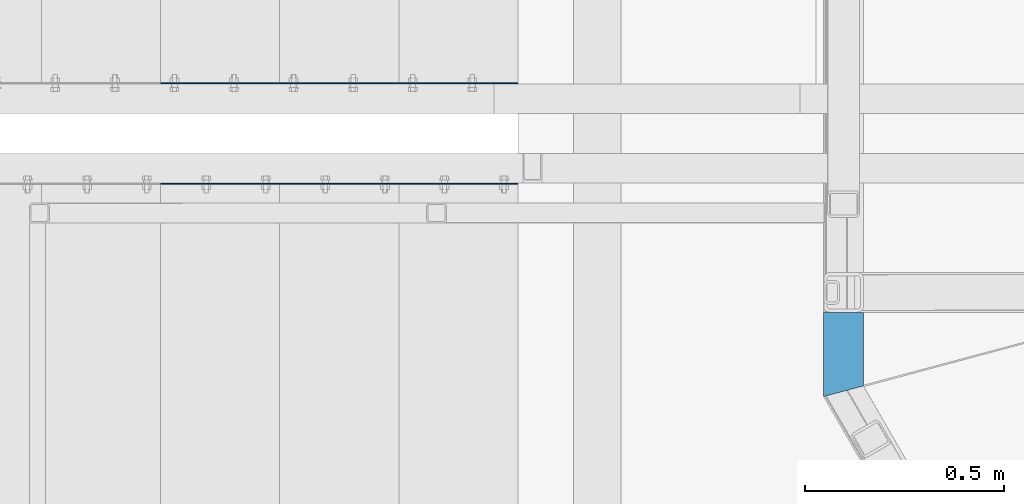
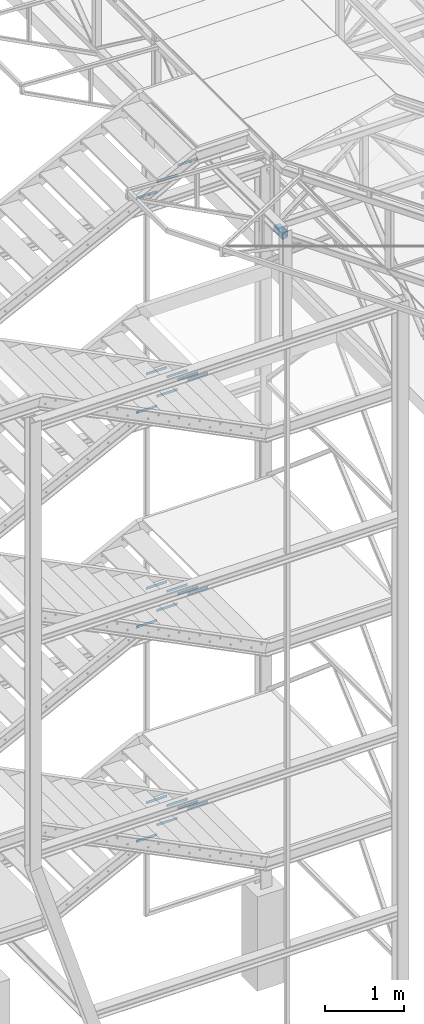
# One storey, part 68 of 132: 22 discrete accessories, 22 elements without a shape of their own.
"""IFC2X3 building model written with IfcOpenShell, lengths in millimetres."""

from ifc_helpers import new_model, si_unit, frame, origin_with_axes, origin_2d_with_axis, place, context, subcontext, project, spatial, rectangle, hollow_rectangle, extrude, clip, halfspace, material, type_object, element, aggregate, save


model = new_model("IFC2X3")

# Units and contexts
model_context = context("Model", 3, precision=1e-05, world=origin_with_axes())
body_context = subcontext(model_context, "Body", "Model", "MODEL_VIEW")
ifc_project = project(units=[si_unit("LENGTHUNIT", "METRE", prefix="MILLI"), si_unit("AREAUNIT", "SQUARE_METRE"), si_unit("VOLUMEUNIT", "CUBIC_METRE"), si_unit("MASSUNIT", "GRAM", prefix="KILO"), si_unit("TIMEUNIT", "SECOND"), si_unit("PLANEANGLEUNIT", "RADIAN"), si_unit("SOLIDANGLEUNIT", "STERADIAN"), si_unit("THERMODYNAMICTEMPERATUREUNIT", "DEGREE_CELSIUS"), si_unit("LUMINOUSINTENSITYUNIT", "LUMEN")], contexts=[model_context])

# Site, building, storey
site_placement = place(None, origin_with_axes())
site = spatial("IfcSite", under=ifc_project, at=site_placement, Name="Budowa", CompositionType="ELEMENT")
building_placement = place(site_placement, origin_with_axes())
building = spatial("IfcBuilding", under=site, at=building_placement, Name="Undefined", CompositionType="ELEMENT")
storey_placement = place(building_placement, origin_with_axes())
storey = spatial("IfcBuildingStorey", under=building, at=storey_placement, Name="Undefined", CompositionType="ELEMENT", Elevation=0.0)

# Assembly, discrete accessory
assembly_1_placement = place(storey_placement, origin_with_axes())
assembly_1 = element("IfcElementAssembly", 1, at=assembly_1_placement, inside=storey, Name="Steel Assembly", AssemblyPlace="NOTDEFINED", PredefinedType="RIGID_FRAME")
ifc_material_1 = material(Name="STEEL/S235")
discrete_accessory_type_1 = type_object("IfcDiscreteAccessoryType", Name="BEAM")
discrete_accessory_1_placement = place(assembly_1_placement, frame((-0.000107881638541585, 8737.71781926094, 12830.0), z_axis=(-1.0, 0.0, 0.0), x_axis=(0.0, 1.0, 0.0)))
discrete_accessory_1 = element("IfcDiscreteAccessory", 2, at=discrete_accessory_1_placement, type_object=discrete_accessory_type_1, material=ifc_material_1, Name="BEAM", ObjectType="SHS100*8", context=body_context, shape_type="Clipping", body=[
    clip(extrude(hollow_rectangle(XDim=100.0, YDim=100.0, WallThickness=8.0, InnerFilletRadius=8.0, OuterFilletRadius=16.0, at=origin_2d_with_axis()), frame((212.282180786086, 0.0, 0.0), z_axis=(-1.0, 0.0, 0.0), x_axis=(0.0, -1.0, 0.0)), (0.0, 0.0, 1.0), 212.42), halfspace(frame((26.7949198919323, 0.0, -50.0000000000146), z_axis=(0.965925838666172, 0.0, 0.258818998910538), x_axis=(0.0, -1.0, 0.0)), True)),
])
aggregate(assembly_1, [discrete_accessory_1])

assembly_2_placement = place(storey_placement, origin_with_axes())
assembly_2 = element("IfcElementAssembly", 3, at=assembly_2_placement, inside=storey, Name="Steel Assembly", AssemblyPlace="NOTDEFINED", PredefinedType="RIGID_FRAME")
ifc_material_2 = material(Name="STEEL/S235JR")
discrete_accessory_type_2 = type_object("IfcDiscreteAccessoryType", Name="ANGLE")
discrete_accessory_2_placement = place(assembly_2_placement, frame((-820.00000008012, 9526.5000000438, 13829.9999999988), z_axis=(0.0, 1.0, 0.0), x_axis=(-1.0, 0.0, 0.0)))
discrete_accessory_2 = element("IfcDiscreteAccessory", 4, at=discrete_accessory_2_placement, type_object=discrete_accessory_type_2, material=ifc_material_2, Name="ANGLE", ObjectType="3*40", context=body_context, shape_type="SweptSolid", body=[
    extrude(rectangle(XDim=40.0, YDim=3.0, at=origin_2d_with_axis()), frame((300.0, 0.0, 0.0), z_axis=(-1.0, 0.0, 0.0), x_axis=(0.0, -1.0, 0.0)), (0.0, 0.0, 1.0), 300.0),
])
aggregate(assembly_2, [discrete_accessory_2])

assembly_3_placement = place(storey_placement, origin_with_axes())
assembly_3 = element("IfcElementAssembly", 5, at=assembly_3_placement, inside=storey, Name="Steel Assembly", AssemblyPlace="NOTDEFINED", PredefinedType="RIGID_FRAME")
discrete_accessory_3_placement = place(assembly_3_placement, frame((-1120.00000008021, 9526.5000000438, 13679.9999999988), z_axis=(0.0, 1.0, 0.0), x_axis=(-1.0, 0.0, 0.0)))
discrete_accessory_3 = element("IfcDiscreteAccessory", 6, at=discrete_accessory_3_placement, type_object=discrete_accessory_type_2, material=ifc_material_2, Name="ANGLE", ObjectType="3*40", context=body_context, shape_type="SweptSolid", body=[
    extrude(rectangle(XDim=40.0, YDim=3.0, at=origin_2d_with_axis()), frame((300.0, 0.0, 0.0), z_axis=(-1.0, 0.0, 0.0), x_axis=(0.0, -1.0, 0.0)), (0.0, 0.0, 1.0), 300.0),
])
aggregate(assembly_3, [discrete_accessory_3])

assembly_4_placement = place(storey_placement, origin_with_axes())
assembly_4 = element("IfcElementAssembly", 7, at=assembly_4_placement, inside=storey, Name="Steel Assembly", AssemblyPlace="NOTDEFINED", PredefinedType="RIGID_FRAME")
discrete_accessory_4_placement = place(assembly_4_placement, frame((-1420.0000000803, 9526.5000000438, 13529.9999999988), z_axis=(0.0, 1.0, 0.0), x_axis=(-1.0, 0.0, 0.0)))
discrete_accessory_4 = element("IfcDiscreteAccessory", 8, at=discrete_accessory_4_placement, type_object=discrete_accessory_type_2, material=ifc_material_2, Name="ANGLE", ObjectType="3*40", context=body_context, shape_type="SweptSolid", body=[
    extrude(rectangle(XDim=40.0, YDim=3.0, at=origin_2d_with_axis()), frame((300.0, 0.0, 0.0), z_axis=(-1.0, 0.0, 0.0), x_axis=(0.0, -1.0, 0.0)), (0.0, 0.0, 1.0), 300.0),
])
aggregate(assembly_4, [discrete_accessory_4])

assembly_5_placement = place(storey_placement, origin_with_axes())
assembly_5 = element("IfcElementAssembly", 9, at=assembly_5_placement, inside=storey, Name="Steel Assembly", AssemblyPlace="NOTDEFINED", PredefinedType="RIGID_FRAME")
discrete_accessory_5_placement = place(assembly_5_placement, frame((-1720.00000007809, 9273.50000004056, 10980.0000000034), z_axis=(0.0, -1.0, 0.0), x_axis=(1.0, 0.0, 0.0)))
discrete_accessory_5 = element("IfcDiscreteAccessory", 10, at=discrete_accessory_5_placement, type_object=discrete_accessory_type_2, material=ifc_material_2, Name="ANGLE", ObjectType="3*40", context=body_context, shape_type="SweptSolid", body=[
    extrude(rectangle(XDim=40.0, YDim=3.0, at=origin_2d_with_axis()), frame((300.0, 0.0, 0.0), z_axis=(-1.0, 0.0, 0.0), x_axis=(0.0, -1.0, 0.0)), (0.0, 0.0, 1.0), 300.0),
])
aggregate(assembly_5, [discrete_accessory_5])

assembly_6_placement = place(storey_placement, origin_with_axes())
assembly_6 = element("IfcElementAssembly", 11, at=assembly_6_placement, inside=storey, Name="Steel Assembly", AssemblyPlace="NOTDEFINED", PredefinedType="RIGID_FRAME")
discrete_accessory_6_placement = place(assembly_6_placement, frame((-1420.00000007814, 9273.50000004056, 10830.0000000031), z_axis=(0.0, -1.0, 0.0), x_axis=(1.0, 0.0, 0.0)))
discrete_accessory_6 = element("IfcDiscreteAccessory", 12, at=discrete_accessory_6_placement, type_object=discrete_accessory_type_2, material=ifc_material_2, Name="ANGLE", ObjectType="3*40", context=body_context, shape_type="SweptSolid", body=[
    extrude(rectangle(XDim=40.0, YDim=3.0, at=origin_2d_with_axis()), frame((300.0, 0.0, 0.0), z_axis=(-1.0, 0.0, 0.0), x_axis=(0.0, -1.0, 0.0)), (0.0, 0.0, 1.0), 300.0),
])
aggregate(assembly_6, [discrete_accessory_6])

assembly_7_placement = place(storey_placement, origin_with_axes())
assembly_7 = element("IfcElementAssembly", 13, at=assembly_7_placement, inside=storey, Name="Steel Assembly", AssemblyPlace="NOTDEFINED", PredefinedType="RIGID_FRAME")
discrete_accessory_7_placement = place(assembly_7_placement, frame((-1120.00000007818, 9273.50000004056, 10680.0000000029), z_axis=(0.0, -1.0, 0.0), x_axis=(1.0, 0.0, 0.0)))
discrete_accessory_7 = element("IfcDiscreteAccessory", 14, at=discrete_accessory_7_placement, type_object=discrete_accessory_type_2, material=ifc_material_2, Name="ANGLE", ObjectType="3*40", context=body_context, shape_type="SweptSolid", body=[
    extrude(rectangle(XDim=40.0, YDim=3.0, at=origin_2d_with_axis()), frame((300.0, 0.0, 0.0), z_axis=(-1.0, 0.0, 0.0), x_axis=(0.0, -1.0, 0.0)), (0.0, 0.0, 1.0), 300.0),
])
aggregate(assembly_7, [discrete_accessory_7])

assembly_8_placement = place(storey_placement, origin_with_axes())
assembly_8 = element("IfcElementAssembly", 15, at=assembly_8_placement, inside=storey, Name="Steel Assembly", AssemblyPlace="NOTDEFINED", PredefinedType="RIGID_FRAME")
discrete_accessory_8_placement = place(assembly_8_placement, frame((-820.000000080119, 9526.5000000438, 10529.9999999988), z_axis=(0.0, 1.0, 0.0), x_axis=(-1.0, 0.0, 0.0)))
discrete_accessory_8 = element("IfcDiscreteAccessory", 16, at=discrete_accessory_8_placement, type_object=discrete_accessory_type_2, material=ifc_material_2, Name="ANGLE", ObjectType="3*40", context=body_context, shape_type="SweptSolid", body=[
    extrude(rectangle(XDim=40.0, YDim=3.0, at=origin_2d_with_axis()), frame((300.0, 0.0, 0.0), z_axis=(-1.0, 0.0, 0.0), x_axis=(0.0, -1.0, 0.0)), (0.0, 0.0, 1.0), 300.0),
])
aggregate(assembly_8, [discrete_accessory_8])

assembly_9_placement = place(storey_placement, origin_with_axes())
assembly_9 = element("IfcElementAssembly", 17, at=assembly_9_placement, inside=storey, Name="Steel Assembly", AssemblyPlace="NOTDEFINED", PredefinedType="RIGID_FRAME")
discrete_accessory_9_placement = place(assembly_9_placement, frame((-1120.00000008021, 9526.5000000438, 10379.9999999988), z_axis=(0.0, 1.0, 0.0), x_axis=(-1.0, 0.0, 0.0)))
discrete_accessory_9 = element("IfcDiscreteAccessory", 18, at=discrete_accessory_9_placement, type_object=discrete_accessory_type_2, material=ifc_material_2, Name="ANGLE", ObjectType="3*40", context=body_context, shape_type="SweptSolid", body=[
    extrude(rectangle(XDim=40.0, YDim=3.0, at=origin_2d_with_axis()), frame((300.0, 0.0, 0.0), z_axis=(-1.0, 0.0, 0.0), x_axis=(0.0, -1.0, 0.0)), (0.0, 0.0, 1.0), 300.0),
])
aggregate(assembly_9, [discrete_accessory_9])

assembly_10_placement = place(storey_placement, origin_with_axes())
assembly_10 = element("IfcElementAssembly", 19, at=assembly_10_placement, inside=storey, Name="Steel Assembly", AssemblyPlace="NOTDEFINED", PredefinedType="RIGID_FRAME")
discrete_accessory_10_placement = place(assembly_10_placement, frame((-1420.0000000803, 9526.5000000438, 10229.9999999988), z_axis=(0.0, 1.0, 0.0), x_axis=(-1.0, 0.0, 0.0)))
discrete_accessory_10 = element("IfcDiscreteAccessory", 20, at=discrete_accessory_10_placement, type_object=discrete_accessory_type_2, material=ifc_material_2, Name="ANGLE", ObjectType="3*40", context=body_context, shape_type="SweptSolid", body=[
    extrude(rectangle(XDim=40.0, YDim=3.0, at=origin_2d_with_axis()), frame((300.0, 0.0, 0.0), z_axis=(-1.0, 0.0, 0.0), x_axis=(0.0, -1.0, 0.0)), (0.0, 0.0, 1.0), 300.0),
])
aggregate(assembly_10, [discrete_accessory_10])

assembly_11_placement = place(storey_placement, origin_with_axes())
assembly_11 = element("IfcElementAssembly", 21, at=assembly_11_placement, inside=storey, Name="Steel Assembly", AssemblyPlace="NOTDEFINED", PredefinedType="RIGID_FRAME")
discrete_accessory_11_placement = place(assembly_11_placement, frame((-1720.00000007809, 9273.50000004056, 7680.00000000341), z_axis=(0.0, -1.0, 0.0), x_axis=(1.0, 0.0, 0.0)))
discrete_accessory_11 = element("IfcDiscreteAccessory", 22, at=discrete_accessory_11_placement, type_object=discrete_accessory_type_2, material=ifc_material_2, Name="ANGLE", ObjectType="3*40", context=body_context, shape_type="SweptSolid", body=[
    extrude(rectangle(XDim=40.0, YDim=3.0, at=origin_2d_with_axis()), frame((300.0, 0.0, 0.0), z_axis=(-1.0, 0.0, 0.0), x_axis=(0.0, -1.0, 0.0)), (0.0, 0.0, 1.0), 300.0),
])
aggregate(assembly_11, [discrete_accessory_11])

assembly_12_placement = place(storey_placement, origin_with_axes())
assembly_12 = element("IfcElementAssembly", 23, at=assembly_12_placement, inside=storey, Name="Steel Assembly", AssemblyPlace="NOTDEFINED", PredefinedType="RIGID_FRAME")
discrete_accessory_12_placement = place(assembly_12_placement, frame((-1420.00000007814, 9273.50000004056, 7530.00000000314), z_axis=(0.0, -1.0, 0.0), x_axis=(1.0, 0.0, 0.0)))
discrete_accessory_12 = element("IfcDiscreteAccessory", 24, at=discrete_accessory_12_placement, type_object=discrete_accessory_type_2, material=ifc_material_2, Name="ANGLE", ObjectType="3*40", context=body_context, shape_type="SweptSolid", body=[
    extrude(rectangle(XDim=40.0, YDim=3.0, at=origin_2d_with_axis()), frame((300.0, 0.0, 0.0), z_axis=(-1.0, 0.0, 0.0), x_axis=(0.0, -1.0, 0.0)), (0.0, 0.0, 1.0), 300.0),
])
aggregate(assembly_12, [discrete_accessory_12])

assembly_13_placement = place(storey_placement, origin_with_axes())
assembly_13 = element("IfcElementAssembly", 25, at=assembly_13_placement, inside=storey, Name="Steel Assembly", AssemblyPlace="NOTDEFINED", PredefinedType="RIGID_FRAME")
discrete_accessory_13_placement = place(assembly_13_placement, frame((-1120.00000007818, 9273.50000004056, 7380.00000000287), z_axis=(0.0, -1.0, 0.0), x_axis=(1.0, 0.0, 0.0)))
discrete_accessory_13 = element("IfcDiscreteAccessory", 26, at=discrete_accessory_13_placement, type_object=discrete_accessory_type_2, material=ifc_material_2, Name="ANGLE", ObjectType="3*40", context=body_context, shape_type="SweptSolid", body=[
    extrude(rectangle(XDim=40.0, YDim=3.0, at=origin_2d_with_axis()), frame((300.0, 0.0, 0.0), z_axis=(-1.0, 0.0, 0.0), x_axis=(0.0, -1.0, 0.0)), (0.0, 0.0, 1.0), 300.0),
])
aggregate(assembly_13, [discrete_accessory_13])

assembly_14_placement = place(storey_placement, origin_with_axes())
assembly_14 = element("IfcElementAssembly", 27, at=assembly_14_placement, inside=storey, Name="Steel Assembly", AssemblyPlace="NOTDEFINED", PredefinedType="RIGID_FRAME")
discrete_accessory_14_placement = place(assembly_14_placement, frame((-820.000000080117, 9526.5000000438, 7229.99999999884), z_axis=(0.0, 1.0, 0.0), x_axis=(-1.0, 0.0, 0.0)))
discrete_accessory_14 = element("IfcDiscreteAccessory", 28, at=discrete_accessory_14_placement, type_object=discrete_accessory_type_2, material=ifc_material_2, Name="ANGLE", ObjectType="3*40", context=body_context, shape_type="SweptSolid", body=[
    extrude(rectangle(XDim=40.0, YDim=3.0, at=origin_2d_with_axis()), frame((300.0, 0.0, 0.0), z_axis=(-1.0, 0.0, 0.0), x_axis=(0.0, -1.0, 0.0)), (0.0, 0.0, 1.0), 300.0),
])
aggregate(assembly_14, [discrete_accessory_14])

assembly_15_placement = place(storey_placement, origin_with_axes())
assembly_15 = element("IfcElementAssembly", 29, at=assembly_15_placement, inside=storey, Name="Steel Assembly", AssemblyPlace="NOTDEFINED", PredefinedType="RIGID_FRAME")
discrete_accessory_15_placement = place(assembly_15_placement, frame((-1120.00000008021, 9526.5000000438, 7079.99999999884), z_axis=(0.0, 1.0, 0.0), x_axis=(-1.0, 0.0, 0.0)))
discrete_accessory_15 = element("IfcDiscreteAccessory", 30, at=discrete_accessory_15_placement, type_object=discrete_accessory_type_2, material=ifc_material_2, Name="ANGLE", ObjectType="3*40", context=body_context, shape_type="SweptSolid", body=[
    extrude(rectangle(XDim=40.0, YDim=3.0, at=origin_2d_with_axis()), frame((300.0, 0.0, 0.0), z_axis=(-1.0, 0.0, 0.0), x_axis=(0.0, -1.0, 0.0)), (0.0, 0.0, 1.0), 300.0),
])
aggregate(assembly_15, [discrete_accessory_15])

assembly_16_placement = place(storey_placement, origin_with_axes())
assembly_16 = element("IfcElementAssembly", 31, at=assembly_16_placement, inside=storey, Name="Steel Assembly", AssemblyPlace="NOTDEFINED", PredefinedType="RIGID_FRAME")
discrete_accessory_16_placement = place(assembly_16_placement, frame((-1420.00000008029, 9526.5000000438, 6929.99999999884), z_axis=(0.0, 1.0, 0.0), x_axis=(-1.0, 0.0, 0.0)))
discrete_accessory_16 = element("IfcDiscreteAccessory", 32, at=discrete_accessory_16_placement, type_object=discrete_accessory_type_2, material=ifc_material_2, Name="ANGLE", ObjectType="3*40", context=body_context, shape_type="SweptSolid", body=[
    extrude(rectangle(XDim=40.0, YDim=3.0, at=origin_2d_with_axis()), frame((300.0, 0.0, 0.0), z_axis=(-1.0, 0.0, 0.0), x_axis=(0.0, -1.0, 0.0)), (0.0, 0.0, 1.0), 300.0),
])
aggregate(assembly_16, [discrete_accessory_16])

assembly_17_placement = place(storey_placement, origin_with_axes())
assembly_17 = element("IfcElementAssembly", 33, at=assembly_17_placement, inside=storey, Name="Steel Assembly", AssemblyPlace="NOTDEFINED", PredefinedType="RIGID_FRAME")
discrete_accessory_17_placement = place(assembly_17_placement, frame((-1720.00000007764, 9273.50000004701, 4379.99999999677), z_axis=(0.0, -1.0, 0.0), x_axis=(1.0, 0.0, 0.0)))
discrete_accessory_17 = element("IfcDiscreteAccessory", 34, at=discrete_accessory_17_placement, type_object=discrete_accessory_type_2, material=ifc_material_2, Name="ANGLE", ObjectType="3*40", context=body_context, shape_type="SweptSolid", body=[
    extrude(rectangle(XDim=40.0, YDim=3.0, at=origin_2d_with_axis()), frame((300.0, 0.0, 0.0), z_axis=(-1.0, 0.0, 0.0), x_axis=(0.0, -1.0, 0.0)), (0.0, 0.0, 1.0), 300.0),
])
aggregate(assembly_17, [discrete_accessory_17])

assembly_18_placement = place(storey_placement, origin_with_axes())
assembly_18 = element("IfcElementAssembly", 35, at=assembly_18_placement, inside=storey, Name="Steel Assembly", AssemblyPlace="NOTDEFINED", PredefinedType="RIGID_FRAME")
discrete_accessory_18_placement = place(assembly_18_placement, frame((-1420.00000007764, 9273.50000004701, 4229.99999999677), z_axis=(0.0, -1.0, 0.0), x_axis=(1.0, 0.0, 0.0)))
discrete_accessory_18 = element("IfcDiscreteAccessory", 36, at=discrete_accessory_18_placement, type_object=discrete_accessory_type_2, material=ifc_material_2, Name="ANGLE", ObjectType="3*40", context=body_context, shape_type="SweptSolid", body=[
    extrude(rectangle(XDim=40.0, YDim=3.0, at=origin_2d_with_axis()), frame((300.0, 0.0, 0.0), z_axis=(-1.0, 0.0, 0.0), x_axis=(0.0, -1.0, 0.0)), (0.0, 0.0, 1.0), 300.0),
])
aggregate(assembly_18, [discrete_accessory_18])

assembly_19_placement = place(storey_placement, origin_with_axes())
assembly_19 = element("IfcElementAssembly", 37, at=assembly_19_placement, inside=storey, Name="Steel Assembly", AssemblyPlace="NOTDEFINED", PredefinedType="RIGID_FRAME")
discrete_accessory_19_placement = place(assembly_19_placement, frame((-1120.00000007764, 9273.50000004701, 4079.99999999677), z_axis=(0.0, -1.0, 0.0), x_axis=(1.0, 0.0, 0.0)))
discrete_accessory_19 = element("IfcDiscreteAccessory", 38, at=discrete_accessory_19_placement, type_object=discrete_accessory_type_2, material=ifc_material_2, Name="ANGLE", ObjectType="3*40", context=body_context, shape_type="SweptSolid", body=[
    extrude(rectangle(XDim=40.0, YDim=3.0, at=origin_2d_with_axis()), frame((300.0, 0.0, 0.0), z_axis=(-1.0, 0.0, 0.0), x_axis=(0.0, -1.0, 0.0)), (0.0, 0.0, 1.0), 300.0),
])
aggregate(assembly_19, [discrete_accessory_19])

assembly_20_placement = place(storey_placement, origin_with_axes())
assembly_20 = element("IfcElementAssembly", 39, at=assembly_20_placement, inside=storey, Name="Steel Assembly", AssemblyPlace="NOTDEFINED", PredefinedType="RIGID_FRAME")
discrete_accessory_20_placement = place(assembly_20_placement, frame((-820.000000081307, 9526.50000004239, 3929.99999999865), z_axis=(0.0, 1.0, 0.0), x_axis=(-1.0, 0.0, 0.0)))
discrete_accessory_20 = element("IfcDiscreteAccessory", 40, at=discrete_accessory_20_placement, type_object=discrete_accessory_type_2, material=ifc_material_2, Name="ANGLE", ObjectType="3*40", context=body_context, shape_type="SweptSolid", body=[
    extrude(rectangle(XDim=40.0, YDim=3.0, at=origin_2d_with_axis()), frame((300.0, 0.0, 0.0), z_axis=(-1.0, 0.0, 0.0), x_axis=(0.0, -1.0, 0.0)), (0.0, 0.0, 1.0), 300.0),
])
aggregate(assembly_20, [discrete_accessory_20])

assembly_21_placement = place(storey_placement, origin_with_axes())
assembly_21 = element("IfcElementAssembly", 41, at=assembly_21_placement, inside=storey, Name="Steel Assembly", AssemblyPlace="NOTDEFINED", PredefinedType="RIGID_FRAME")
discrete_accessory_21_placement = place(assembly_21_placement, frame((-1120.00000008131, 9526.5000000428, 3779.99999999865), z_axis=(0.0, 1.0, 0.0), x_axis=(-1.0, 0.0, 0.0)))
discrete_accessory_21 = element("IfcDiscreteAccessory", 42, at=discrete_accessory_21_placement, type_object=discrete_accessory_type_2, material=ifc_material_2, Name="ANGLE", ObjectType="3*40", context=body_context, shape_type="SweptSolid", body=[
    extrude(rectangle(XDim=40.0, YDim=3.0, at=origin_2d_with_axis()), frame((300.0, 0.0, 0.0), z_axis=(-1.0, 0.0, 0.0), x_axis=(0.0, -1.0, 0.0)), (0.0, 0.0, 1.0), 300.0),
])
aggregate(assembly_21, [discrete_accessory_21])

assembly_22_placement = place(storey_placement, origin_with_axes())
assembly_22 = element("IfcElementAssembly", 43, at=assembly_22_placement, inside=storey, Name="Steel Assembly", AssemblyPlace="NOTDEFINED", PredefinedType="RIGID_FRAME")
discrete_accessory_22_placement = place(assembly_22_placement, frame((-1420.00000008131, 9526.50000004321, 3629.99999999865), z_axis=(0.0, 1.0, 0.0), x_axis=(-1.0, 0.0, 0.0)))
discrete_accessory_22 = element("IfcDiscreteAccessory", 44, at=discrete_accessory_22_placement, type_object=discrete_accessory_type_2, material=ifc_material_2, Name="ANGLE", ObjectType="3*40", context=body_context, shape_type="SweptSolid", body=[
    extrude(rectangle(XDim=40.0, YDim=3.0, at=origin_2d_with_axis()), frame((300.0, 0.0, 0.0), z_axis=(-1.0, 0.0, 0.0), x_axis=(0.0, -1.0, 0.0)), (0.0, 0.0, 1.0), 300.0),
])
aggregate(assembly_22, [discrete_accessory_22])

save(model, "model.ifc")
